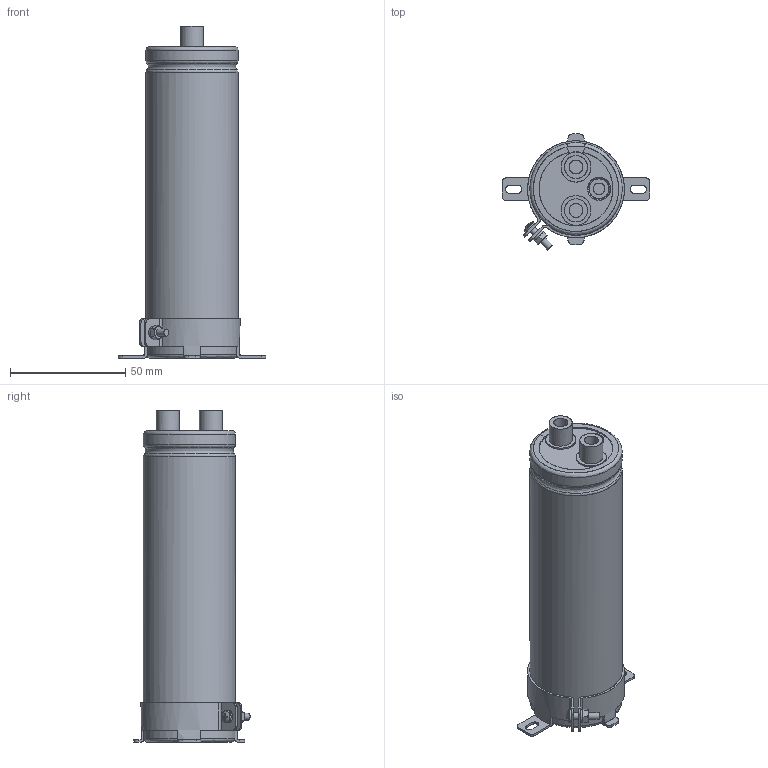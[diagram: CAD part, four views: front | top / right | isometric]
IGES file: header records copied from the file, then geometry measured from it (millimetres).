
Start section: JAMA-IS VERSION  1.0
Bounding box: 64 x 50.36 x 144 mm (x, y, z)
Surface area: 60575.8 mm2 (no closed solid volume)
Topology: 0 solids, 0 shells, 256 faces, 4273 edges, 4244 vertices
Faces by surface type: bspline 256
